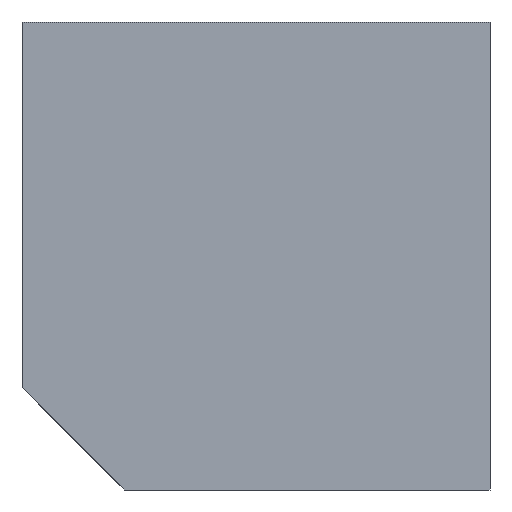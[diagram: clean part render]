
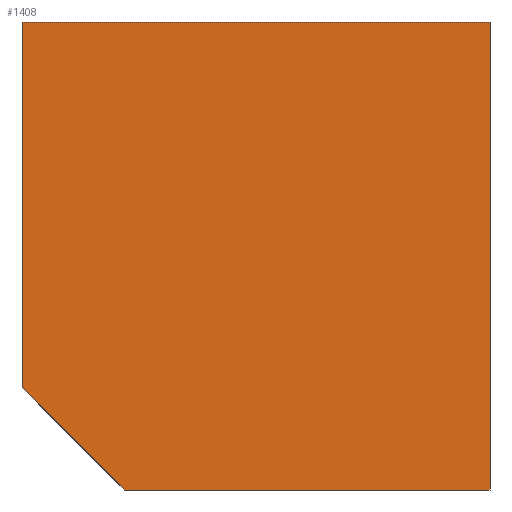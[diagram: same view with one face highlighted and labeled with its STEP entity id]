
A CAD part, front view. The second image highlights one B-rep face of the part: STEP entity #1408.
In plain terms, the highlighted planar face has unit normal (0, -1, 0).
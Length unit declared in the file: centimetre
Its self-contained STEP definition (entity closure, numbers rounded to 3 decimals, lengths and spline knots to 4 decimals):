
#4 = LINE ( 'NONE', #335, #1480 ) ;
#43 = ORIENTED_EDGE ( 'NONE', *, *, #1289, .F. ) ;
#90 = DIRECTION ( 'NONE',  ( 1., 0., 0. ) ) ;
#106 = ORIENTED_EDGE ( 'NONE', *, *, #677, .T. ) ;
#114 = CARTESIAN_POINT ( 'NONE',  ( 0., 0., 1000. ) ) ;
#120 = VERTEX_POINT ( 'NONE', #986 ) ;
#191 = LINE ( 'NONE', #634, #505 ) ;
#198 = CARTESIAN_POINT ( 'NONE',  ( 0., 0., 218.3599 ) ) ;
#230 = DIRECTION ( 'NONE',  ( 0., 0., 1. ) ) ;
#284 = DIRECTION ( 'NONE',  ( 0.707, 0., -0.707 ) ) ;
#297 = EDGE_CURVE ( 'NONE', #1198, #299, #1094, .T. ) ;
#299 = VERTEX_POINT ( 'NONE', #1246 ) ;
#304 = EDGE_CURVE ( 'NONE', #744, #299, #1255, .T. ) ;
#328 = VECTOR ( 'NONE', #628, 100. ) ;
#335 = CARTESIAN_POINT ( 'NONE',  ( 0., 0., 1000. ) ) ;
#346 = DIRECTION ( 'NONE',  ( 0., 1., 0. ) ) ;
#353 = DIRECTION ( 'NONE',  ( 0., 0., -1. ) ) ;
#432 = AXIS2_PLACEMENT_3D ( 'NONE', #1395, #346, #230 ) ;
#443 = ORIENTED_EDGE ( 'NONE', *, *, #304, .T. ) ;
#503 = CARTESIAN_POINT ( 'NONE',  ( 1000., 0., 1000. ) ) ;
#505 = VECTOR ( 'NONE', #284, 100. ) ;
#628 = DIRECTION ( 'NONE',  ( 0., 0., -1. ) ) ;
#634 = CARTESIAN_POINT ( 'NONE',  ( 0., 0., 218.3599 ) ) ;
#677 = EDGE_CURVE ( 'NONE', #955, #744, #191, .T. ) ;
#726 = CARTESIAN_POINT ( 'NONE',  ( 218.3599, 0., 0. ) ) ;
#744 = VERTEX_POINT ( 'NONE', #726 ) ;
#750 = ORIENTED_EDGE ( 'NONE', *, *, #297, .F. ) ;
#853 = EDGE_LOOP ( 'NONE', ( #1342, #106, #443, #750, #43 ) ) ;
#861 = LINE ( 'NONE', #114, #1412 ) ;
#932 = PLANE ( 'NONE',  #432 ) ;
#955 = VERTEX_POINT ( 'NONE', #198 ) ;
#978 = CARTESIAN_POINT ( 'NONE',  ( 1000., 0., 1000. ) ) ;
#986 = CARTESIAN_POINT ( 'NONE',  ( 0., 0., 1000. ) ) ;
#1094 = LINE ( 'NONE', #978, #328 ) ;
#1138 = CARTESIAN_POINT ( 'NONE',  ( 0., 0., 0. ) ) ;
#1140 = EDGE_CURVE ( 'NONE', #120, #955, #861, .T. ) ;
#1161 = FACE_OUTER_BOUND ( 'NONE', #853, .T. ) ;
#1198 = VERTEX_POINT ( 'NONE', #503 ) ;
#1201 = VECTOR ( 'NONE', #90, 100. ) ;
#1246 = CARTESIAN_POINT ( 'NONE',  ( 1000., 0., 0. ) ) ;
#1255 = LINE ( 'NONE', #1138, #1201 ) ;
#1289 = EDGE_CURVE ( 'NONE', #120, #1198, #4, .T. ) ;
#1342 = ORIENTED_EDGE ( 'NONE', *, *, #1140, .T. ) ;
#1375 = DIRECTION ( 'NONE',  ( 1., 0., 0. ) ) ;
#1395 = CARTESIAN_POINT ( 'NONE',  ( 0., 0., 1000. ) ) ;
#1408 = ADVANCED_FACE ( 'NONE', ( #1161 ), #932, .F. ) ;
#1412 = VECTOR ( 'NONE', #353, 100. ) ;
#1480 = VECTOR ( 'NONE', #1375, 100. ) ;
